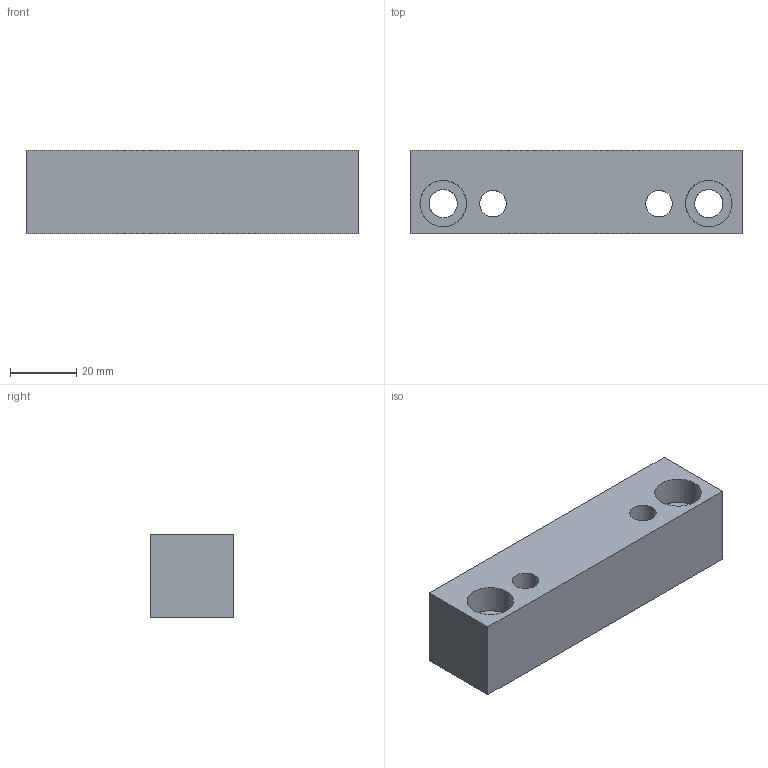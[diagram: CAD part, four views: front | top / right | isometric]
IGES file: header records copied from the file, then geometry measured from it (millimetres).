
Start section: START RECORD GO HERE.
Global section: file name: G40525100.igs; native system: DASSAULT SYSTEMES CATIA V5 R20 - www.3ds.com; preprocessor: CATIA Version 5 Release 20 ; author: r.borello; organization: CFTORINO; date: 20190624.150033; units: millimetre
Bounding box: 100 x 25 x 25 mm (x, y, z)
Surface area: 16996.2 mm2 (no closed solid volume)
Topology: 0 solids, 0 shells, 386 faces, 1656 edges, 1480 vertices
Faces by surface type: revolution 340, plane 46
